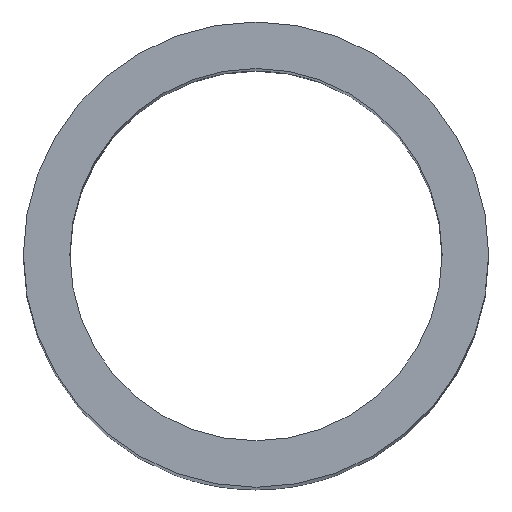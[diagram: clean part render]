
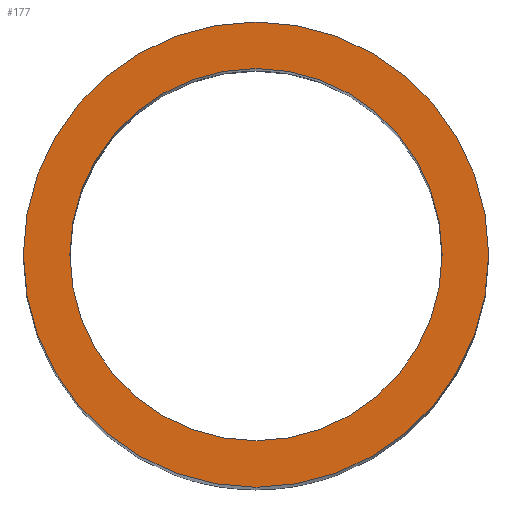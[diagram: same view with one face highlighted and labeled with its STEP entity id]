
A CAD part, top view. The second image highlights one B-rep face of the part: STEP entity #177.
In plain terms, the highlighted planar face has unit normal (0, 0, 1).
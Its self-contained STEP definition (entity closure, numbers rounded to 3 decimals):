
#17 = DIRECTION ( 'NONE',  ( 1., 0., 0. ) ) ;
#19 = ORIENTED_EDGE ( 'NONE', *, *, #268, .T. ) ;
#20 = DIRECTION ( 'NONE',  ( 0., 0., 1. ) ) ;
#26 = CIRCLE ( 'NONE', #525, 15. ) ;
#52 = EDGE_CURVE ( 'NONE', #293, #574, #191, .T. ) ;
#65 = DIRECTION ( 'NONE',  ( 1., 0., 0. ) ) ;
#103 = ORIENTED_EDGE ( 'NONE', *, *, #172, .T. ) ;
#120 = AXIS2_PLACEMENT_3D ( 'NONE', #411, #214, #556 ) ;
#131 = CARTESIAN_POINT ( 'NONE',  ( 12., 0., 100. ) ) ;
#151 = AXIS2_PLACEMENT_3D ( 'NONE', #357, #457, #409 ) ;
#172 = EDGE_CURVE ( 'NONE', #487, #307, #26, .T. ) ;
#177 = ADVANCED_FACE ( 'NONE', ( #542, #395 ), #456, .T. ) ;
#179 = ORIENTED_EDGE ( 'NONE', *, *, #52, .F. ) ;
#191 = CIRCLE ( 'NONE', #594, 12. ) ;
#214 = DIRECTION ( 'NONE',  ( 0., 0., 1. ) ) ;
#215 = CARTESIAN_POINT ( 'NONE',  ( -12., 0., 100. ) ) ;
#243 = CIRCLE ( 'NONE', #558, 15. ) ;
#247 = EDGE_CURVE ( 'NONE', #574, #293, #609, .T. ) ;
#258 = CARTESIAN_POINT ( 'NONE',  ( 0., 0., 100. ) ) ;
#268 = EDGE_CURVE ( 'NONE', #307, #487, #243, .T. ) ;
#293 = VERTEX_POINT ( 'NONE', #215 ) ;
#307 = VERTEX_POINT ( 'NONE', #312 ) ;
#309 = DIRECTION ( 'NONE',  ( 0., 0., 1. ) ) ;
#312 = CARTESIAN_POINT ( 'NONE',  ( 15., 0., 100. ) ) ;
#315 = CARTESIAN_POINT ( 'NONE',  ( -15., 0., 100. ) ) ;
#357 = CARTESIAN_POINT ( 'NONE',  ( 0., 0., 100. ) ) ;
#391 = DIRECTION ( 'NONE',  ( 0., 0., 1. ) ) ;
#395 = FACE_OUTER_BOUND ( 'NONE', #464, .T. ) ;
#409 = DIRECTION ( 'NONE',  ( 1., 0., 0. ) ) ;
#411 = CARTESIAN_POINT ( 'NONE',  ( 0., 0., 100. ) ) ;
#456 = PLANE ( 'NONE',  #120 ) ;
#457 = DIRECTION ( 'NONE',  ( 0., 0., 1. ) ) ;
#464 = EDGE_LOOP ( 'NONE', ( #103, #19 ) ) ;
#487 = VERTEX_POINT ( 'NONE', #315 ) ;
#503 = ORIENTED_EDGE ( 'NONE', *, *, #247, .F. ) ;
#524 = CARTESIAN_POINT ( 'NONE',  ( 0., 0., 100. ) ) ;
#525 = AXIS2_PLACEMENT_3D ( 'NONE', #258, #20, #65 ) ;
#542 = FACE_BOUND ( 'NONE', #554, .T. ) ;
#554 = EDGE_LOOP ( 'NONE', ( #503, #179 ) ) ;
#556 = DIRECTION ( 'NONE',  ( 1., 0., 0. ) ) ;
#558 = AXIS2_PLACEMENT_3D ( 'NONE', #608, #309, #17 ) ;
#574 = VERTEX_POINT ( 'NONE', #131 ) ;
#594 = AXIS2_PLACEMENT_3D ( 'NONE', #524, #391, #595 ) ;
#595 = DIRECTION ( 'NONE',  ( 1., 0., 0. ) ) ;
#608 = CARTESIAN_POINT ( 'NONE',  ( 0., 0., 100. ) ) ;
#609 = CIRCLE ( 'NONE', #151, 12. ) ;
